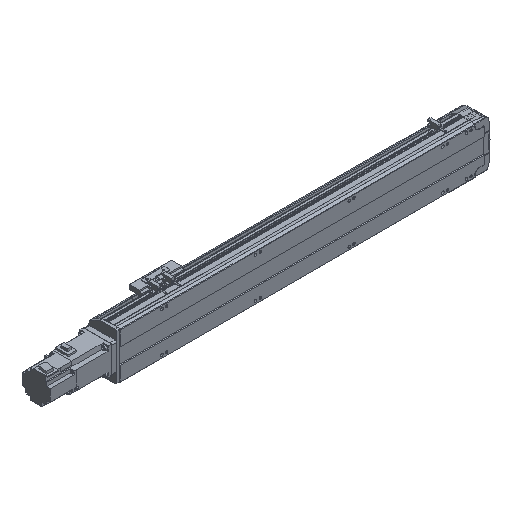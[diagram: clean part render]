
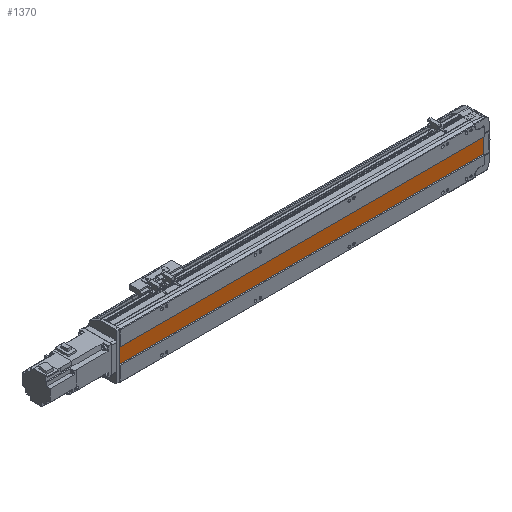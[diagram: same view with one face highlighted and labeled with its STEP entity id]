
A CAD part, isometric view. The second image highlights one B-rep face of the part: STEP entity #1370.
In plain terms, the highlighted planar face has unit normal (0, -1, 0).
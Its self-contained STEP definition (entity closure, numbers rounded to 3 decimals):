
#1370 = ADVANCED_FACE( '', ( #3182 ), #3183, .F. );
#3182 = FACE_OUTER_BOUND( '', #5555, .T. );
#3183 = PLANE( '', #5556 );
#5555 = EDGE_LOOP( '', ( #9273, #9274, #9275, #9276 ) );
#5556 = AXIS2_PLACEMENT_3D( '', #9277, #9278, #9279 );
#9273 = ORIENTED_EDGE( '', *, *, #13935, .F. );
#9274 = ORIENTED_EDGE( '', *, *, #14270, .T. );
#9275 = ORIENTED_EDGE( '', *, *, #13844, .T. );
#9276 = ORIENTED_EDGE( '', *, *, #14761, .F. );
#9277 = CARTESIAN_POINT( '', ( 797., 1., 16. ) );
#9278 = DIRECTION( '', ( 0., 1., 0. ) );
#9279 = DIRECTION( '', ( 0., 0., 1. ) );
#13844 = EDGE_CURVE( '', #16583, #16581, #16584, .T. );
#13935 = EDGE_CURVE( '', #16743, #16745, #16746, .T. );
#14270 = EDGE_CURVE( '', #16743, #16583, #17323, .T. );
#14761 = EDGE_CURVE( '', #16745, #16581, #18096, .T. );
#16581 = VERTEX_POINT( '', #20603 );
#16583 = VERTEX_POINT( '', #20606 );
#16584 = LINE( '', #20607, #20608 );
#16743 = VERTEX_POINT( '', #20818 );
#16745 = VERTEX_POINT( '', #20821 );
#16746 = LINE( '', #20822, #20823 );
#17323 = LINE( '', #21647, #21648 );
#18096 = LINE( '', #22785, #22786 );
#20603 = CARTESIAN_POINT( '', ( 6., 1., -16. ) );
#20606 = CARTESIAN_POINT( '', ( 6., 1., 16. ) );
#20607 = CARTESIAN_POINT( '', ( 6., 1., 16. ) );
#20608 = VECTOR( '', #25685, 1000. );
#20818 = CARTESIAN_POINT( '', ( 783.5, 1., 16. ) );
#20821 = CARTESIAN_POINT( '', ( 783.5, 1., -16. ) );
#20822 = CARTESIAN_POINT( '', ( 783.5, 1., 16. ) );
#20823 = VECTOR( '', #25810, 1000. );
#21647 = CARTESIAN_POINT( '', ( 797., 1., 16. ) );
#21648 = VECTOR( '', #26209, 1000. );
#22785 = CARTESIAN_POINT( '', ( 797., 1., -16. ) );
#22786 = VECTOR( '', #26779, 1000. );
#25685 = DIRECTION( '', ( 0., 0., -1. ) );
#25810 = DIRECTION( '', ( 0., 0., -1. ) );
#26209 = DIRECTION( '', ( -1., 0., 0. ) );
#26779 = DIRECTION( '', ( -1., 0., 0. ) );
